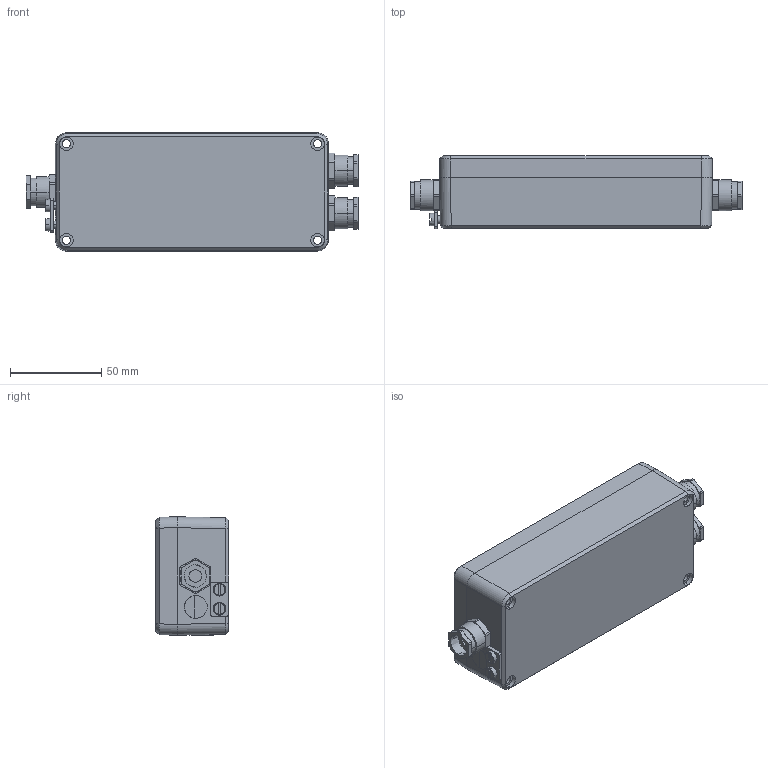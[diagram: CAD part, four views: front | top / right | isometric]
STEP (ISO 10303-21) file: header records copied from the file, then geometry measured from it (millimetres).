
FILE_DESCRIPTION((''),'2;1');
FILE_NAME('1_AED9101C_SW0001','2022-10-19T',('JEBLICK'),(''),'CREO PARAMETRIC BY PTC INC, 2018220','CREO PARAMETRIC BY PTC INC, 2018220','');
FILE_SCHEMA(('CONFIG_CONTROL_DESIGN'));
Length unit declared in the file: millimetre
Products named in the file (1): 1_AED9101C_SW0001
Bounding box: 182.4 x 40.2 x 65 mm (x, y, z)
Volume: 120524.8 mm3; surface area: 79728.5 mm2
Topology: 1 solids, 1 shells, 539 faces, 1352 edges, 880 vertices
Faces by surface type: bspline 539
Entity records: 22039 total; most frequent: CARTESIAN_POINT 9091, ORIENTED_EDGE 2704, DIRECTION 1746, EDGE_CURVE 1352, VERTEX_POINT 880, VECTOR 742, LINE 742, EDGE_LOOP 620
